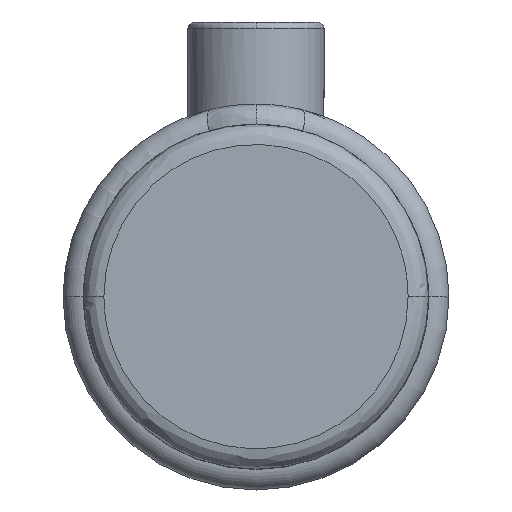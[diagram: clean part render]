
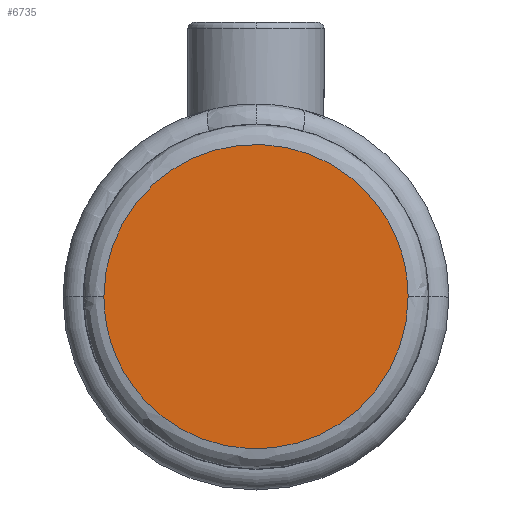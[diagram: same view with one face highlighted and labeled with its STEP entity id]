
A CAD part, top view. The second image highlights one B-rep face of the part: STEP entity #6735.
In plain terms, the highlighted planar face has unit normal (0, 0, 1).
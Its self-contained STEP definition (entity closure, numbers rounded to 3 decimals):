
#90 = AXIS2_PLACEMENT_3D ( 'NONE', #5414, #6789, #2976 ) ;
#171 = CARTESIAN_POINT ( 'NONE',  ( 22.35, 0., 38. ) ) ;
#184 = CARTESIAN_POINT ( 'NONE',  ( 22.35, 44.7, 38. ) ) ;
#305 = CARTESIAN_POINT ( 'NONE',  ( -22.35, 44.7, 38. ) ) ;
#437 = CARTESIAN_POINT ( 'NONE',  ( -22.35, 0., 38. ) ) ;
#692 = EDGE_CURVE ( 'NONE', #5859, #2944, #2434, .T. ) ;
#1210 = ORIENTED_EDGE ( 'NONE', *, *, #2560, .F. ) ;
#1623 = CARTESIAN_POINT ( 'NONE',  ( -22.35, 0., 38. ) ) ;
#2239 = ORIENTED_EDGE ( 'NONE', *, *, #692, .F. ) ;
#2434 =( BOUNDED_CURVE ( )  B_SPLINE_CURVE ( 3, ( #5619, #5983, #5810, #5590 ),
 .UNSPECIFIED., .F., .T. ) 
 B_SPLINE_CURVE_WITH_KNOTS ( ( 4, 4 ),
 ( 0.25, 0.75 ),
 .UNSPECIFIED. ) 
 CURVE ( )  GEOMETRIC_REPRESENTATION_ITEM ( )  RATIONAL_B_SPLINE_CURVE ( ( 1., 0.333, 0.333, 1. ) ) 
 REPRESENTATION_ITEM ( '' )  );
#2560 = EDGE_CURVE ( 'NONE', #2944, #5859, #5352, .T. ) ;
#2944 = VERTEX_POINT ( 'NONE', #1623 ) ;
#2976 = DIRECTION ( 'NONE',  ( 0., -1., 0. ) ) ;
#4110 = PLANE ( 'NONE',  #90 ) ;
#5352 =( BOUNDED_CURVE ( )  B_SPLINE_CURVE ( 3, ( #437, #305, #184, #171 ),
 .UNSPECIFIED., .F., .T. ) 
 B_SPLINE_CURVE_WITH_KNOTS ( ( 4, 4 ),
 ( 0.75, 1.25 ),
 .UNSPECIFIED. ) 
 CURVE ( )  GEOMETRIC_REPRESENTATION_ITEM ( )  RATIONAL_B_SPLINE_CURVE ( ( 1., 0.333, 0.333, 1. ) ) 
 REPRESENTATION_ITEM ( '' )  );
#5414 = CARTESIAN_POINT ( 'NONE',  ( 0., 12.675, 38. ) ) ;
#5590 = CARTESIAN_POINT ( 'NONE',  ( -22.35, 0., 38. ) ) ;
#5619 = CARTESIAN_POINT ( 'NONE',  ( 22.35, 0., 38. ) ) ;
#5810 = CARTESIAN_POINT ( 'NONE',  ( -22.35, -44.7, 38. ) ) ;
#5859 = VERTEX_POINT ( 'NONE', #8056 ) ;
#5983 = CARTESIAN_POINT ( 'NONE',  ( 22.35, -44.7, 38. ) ) ;
#6328 = FACE_OUTER_BOUND ( 'NONE', #6788, .T. ) ;
#6735 = ADVANCED_FACE ( 'NONE', ( #6328 ), #4110, .T. ) ;
#6788 = EDGE_LOOP ( 'NONE', ( #2239, #1210 ) ) ;
#6789 = DIRECTION ( 'NONE',  ( 0., 0., 1. ) ) ;
#8056 = CARTESIAN_POINT ( 'NONE',  ( 22.35, 0., 38. ) ) ;
